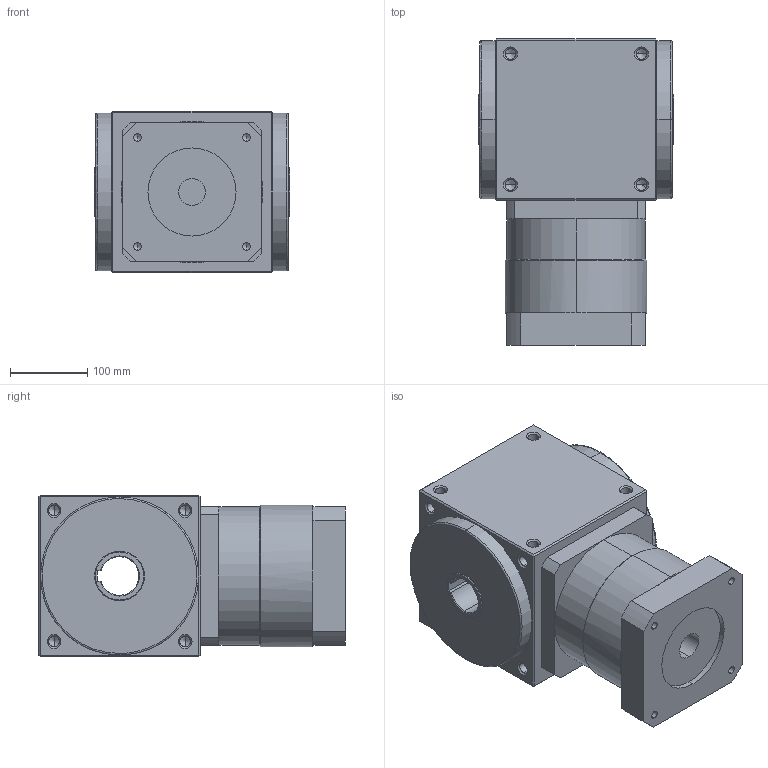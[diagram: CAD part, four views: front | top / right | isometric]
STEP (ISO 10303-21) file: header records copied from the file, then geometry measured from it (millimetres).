
FILE_DESCRIPTION (( 'STEP AP214' ), '1' );
FILE_NAME ('AT210-FH-L1--35-114.3-200-M12-SK.STEP', '2020-11-21T01:09:53', ( '微软用户' ), ( '微软中国' ), 'SwSTEP 2.0', 'SolidWorks 2014', '' );
FILE_SCHEMA (( 'AUTOMOTIVE_DESIGN' ));
Length unit declared in the file: millimetre
Products named in the file (2): AT210-FH-L1--35-114.3-200-M12-SK
Bounding box: 254 x 398 x 210 mm (x, y, z)
Volume: 15107987.5 mm3; surface area: 490599.6 mm2
Topology: 1 solids, 1 shells, 276 faces, 690 edges, 376 vertices
Faces by surface type: cylinder 115, cone 100, plane 57, bspline 4
Entity records: 10879 total; most frequent: CARTESIAN_POINT 1716, DIRECTION 1286, ORIENTED_EDGE 1284, EDGE_CURVE 642, AXIS2_PLACEMENT_3D 490, VERTEX_POINT 376, EDGE_LOOP 310, VECTOR 306
